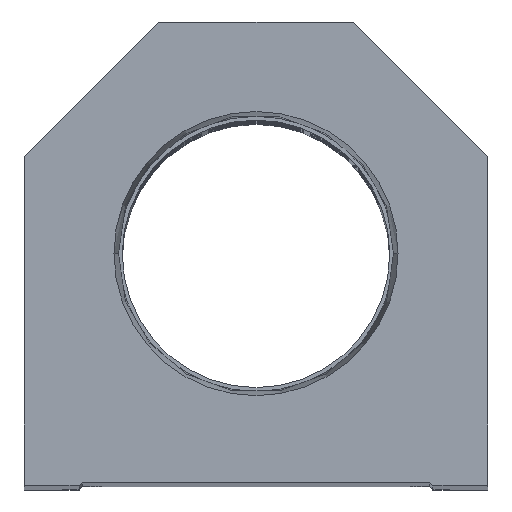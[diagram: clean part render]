
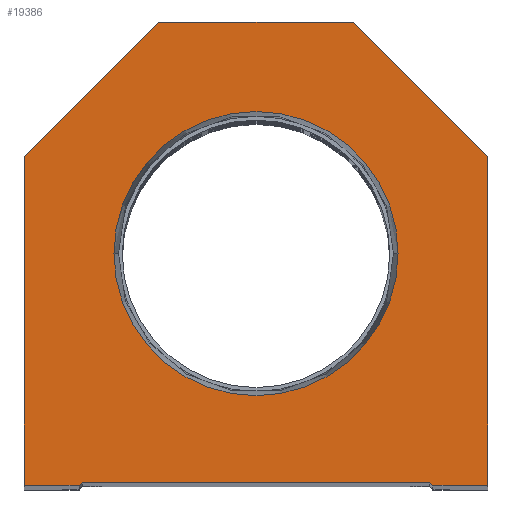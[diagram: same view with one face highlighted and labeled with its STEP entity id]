
A CAD part, top view. The second image highlights one B-rep face of the part: STEP entity #19386.
In plain terms, the highlighted planar face has unit normal (0, 0, 1).
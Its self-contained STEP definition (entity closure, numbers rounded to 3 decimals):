
#19 = VERTEX_POINT ( 'NONE', #4840 ) ;
#597 = VERTEX_POINT ( 'NONE', #11429 ) ;
#1091 = EDGE_CURVE ( 'NONE', #21797, #14191, #17232, .T. ) ;
#1240 = DIRECTION ( 'NONE',  ( 1., 0., 0. ) ) ;
#1493 = LINE ( 'NONE', #19085, #19244 ) ;
#1832 = CARTESIAN_POINT ( 'NONE',  ( 0., 38.1, 0. ) ) ;
#2059 = DIRECTION ( 'NONE',  ( 1., 0., 0. ) ) ;
#2275 = CARTESIAN_POINT ( 'NONE',  ( -38.1, 0., 0. ) ) ;
#2296 = AXIS2_PLACEMENT_3D ( 'NONE', #7933, #6185, #1240 ) ;
#2529 = VERTEX_POINT ( 'NONE', #21355 ) ;
#2709 = VERTEX_POINT ( 'NONE', #17292 ) ;
#2885 = VECTOR ( 'NONE', #21692, 1000. ) ;
#3162 = EDGE_CURVE ( 'NONE', #19, #21348, #9408, .T. ) ;
#3486 = EDGE_CURVE ( 'NONE', #14191, #21797, #14024, .T. ) ;
#3889 = DIRECTION ( 'NONE',  ( 1., 0., 0. ) ) ;
#3897 = ORIENTED_EDGE ( 'NONE', *, *, #1091, .F. ) ;
#3917 = ORIENTED_EDGE ( 'NONE', *, *, #5879, .T. ) ;
#4083 = LINE ( 'NONE', #16494, #17649 ) ;
#4329 = EDGE_CURVE ( 'NONE', #10900, #15236, #1493, .T. ) ;
#4663 = VERTEX_POINT ( 'NONE', #12299 ) ;
#4742 = AXIS2_PLACEMENT_3D ( 'NONE', #1832, #19759, #2059 ) ;
#4840 = CARTESIAN_POINT ( 'NONE',  ( -16., 76.2, 0. ) ) ;
#4909 = FACE_BOUND ( 'NONE', #17606, .T. ) ;
#5229 = VECTOR ( 'NONE', #3889, 1000. ) ;
#5300 = CARTESIAN_POINT ( 'NONE',  ( 38.1, 54.1, 0. ) ) ;
#5471 = VECTOR ( 'NONE', #11480, 1000. ) ;
#5768 = ORIENTED_EDGE ( 'NONE', *, *, #3486, .F. ) ;
#5879 = EDGE_CURVE ( 'NONE', #2529, #4663, #9362, .T. ) ;
#6185 = DIRECTION ( 'NONE',  ( 0., 0., 1. ) ) ;
#6273 = VECTOR ( 'NONE', #11197, 1000. ) ;
#6361 = CARTESIAN_POINT ( 'NONE',  ( 38.1, 0., 0. ) ) ;
#6388 = EDGE_CURVE ( 'NONE', #16186, #2709, #9999, .T. ) ;
#6409 = FACE_OUTER_BOUND ( 'NONE', #15067, .T. ) ;
#6610 = LINE ( 'NONE', #17307, #15612 ) ;
#6649 = ORIENTED_EDGE ( 'NONE', *, *, #9714, .T. ) ;
#7117 = VECTOR ( 'NONE', #22832, 1000. ) ;
#7349 = LINE ( 'NONE', #2275, #21194 ) ;
#7663 = DIRECTION ( 'NONE',  ( 1., 0., 0. ) ) ;
#7785 = CARTESIAN_POINT ( 'NONE',  ( -38.1, 54.1, 0. ) ) ;
#7873 = CARTESIAN_POINT ( 'NONE',  ( 23.374, 38.1, 0. ) ) ;
#7933 = CARTESIAN_POINT ( 'NONE',  ( 0., 0., 0. ) ) ;
#8377 = PLANE ( 'NONE',  #2296 ) ;
#8532 = EDGE_CURVE ( 'NONE', #597, #16186, #12382, .T. ) ;
#9362 = LINE ( 'NONE', #12622, #6273 ) ;
#9408 = LINE ( 'NONE', #7785, #2885 ) ;
#9714 = EDGE_CURVE ( 'NONE', #21348, #2529, #7349, .T. ) ;
#9999 = LINE ( 'NONE', #10345, #21847 ) ;
#10073 = ORIENTED_EDGE ( 'NONE', *, *, #14398, .T. ) ;
#10087 = DIRECTION ( 'NONE',  ( -0.707, 0.707, 0. ) ) ;
#10345 = CARTESIAN_POINT ( 'NONE',  ( 14.55, 14.55, 0. ) ) ;
#10456 = DIRECTION ( 'NONE',  ( 0., 0., 1. ) ) ;
#10528 = CARTESIAN_POINT ( 'NONE',  ( -38.1, 54.1, 0. ) ) ;
#10900 = VERTEX_POINT ( 'NONE', #6361 ) ;
#11197 = DIRECTION ( 'NONE',  ( 1., 0., 0. ) ) ;
#11429 = CARTESIAN_POINT ( 'NONE',  ( -28.6, 0.5, 0. ) ) ;
#11480 = DIRECTION ( 'NONE',  ( 0.707, 0.707, 0. ) ) ;
#12066 = CARTESIAN_POINT ( 'NONE',  ( 0., 38.1, 0. ) ) ;
#12251 = VERTEX_POINT ( 'NONE', #18637 ) ;
#12299 = CARTESIAN_POINT ( 'NONE',  ( -29.1, 0., 0. ) ) ;
#12382 = LINE ( 'NONE', #19446, #5229 ) ;
#12622 = CARTESIAN_POINT ( 'NONE',  ( -28.6, 0., 0. ) ) ;
#12639 = ORIENTED_EDGE ( 'NONE', *, *, #3162, .T. ) ;
#13598 = ORIENTED_EDGE ( 'NONE', *, *, #8532, .T. ) ;
#14024 = CIRCLE ( 'NONE', #4742, 23.374 ) ;
#14191 = VERTEX_POINT ( 'NONE', #19754 ) ;
#14398 = EDGE_CURVE ( 'NONE', #2709, #10900, #4083, .T. ) ;
#15067 = EDGE_LOOP ( 'NONE', ( #3917, #17379, #13598, #18640, #10073, #22285, #22336, #21516, #12639, #6649 ) ) ;
#15236 = VERTEX_POINT ( 'NONE', #5300 ) ;
#15612 = VECTOR ( 'NONE', #10087, 1000. ) ;
#16186 = VERTEX_POINT ( 'NONE', #17680 ) ;
#16261 = EDGE_CURVE ( 'NONE', #4663, #597, #18580, .T. ) ;
#16494 = CARTESIAN_POINT ( 'NONE',  ( 28.6, 0., 0. ) ) ;
#16511 = CARTESIAN_POINT ( 'NONE',  ( -14.55, 14.55, 0. ) ) ;
#17232 = CIRCLE ( 'NONE', #19455, 23.374 ) ;
#17292 = CARTESIAN_POINT ( 'NONE',  ( 29.1, 0., 0. ) ) ;
#17307 = CARTESIAN_POINT ( 'NONE',  ( 38.1, 54.1, 0. ) ) ;
#17379 = ORIENTED_EDGE ( 'NONE', *, *, #16261, .T. ) ;
#17606 = EDGE_LOOP ( 'NONE', ( #3897, #5768 ) ) ;
#17649 = VECTOR ( 'NONE', #7663, 1000. ) ;
#17680 = CARTESIAN_POINT ( 'NONE',  ( 28.6, 0.5, 0. ) ) ;
#17803 = DIRECTION ( 'NONE',  ( 0., -1., 0. ) ) ;
#18580 = LINE ( 'NONE', #16511, #5471 ) ;
#18637 = CARTESIAN_POINT ( 'NONE',  ( 16., 76.2, 0. ) ) ;
#18640 = ORIENTED_EDGE ( 'NONE', *, *, #6388, .T. ) ;
#19085 = CARTESIAN_POINT ( 'NONE',  ( 38.1, 0., 0. ) ) ;
#19244 = VECTOR ( 'NONE', #21040, 1000. ) ;
#19370 = LINE ( 'NONE', #20978, #7117 ) ;
#19386 = ADVANCED_FACE ( 'NONE', ( #4909, #6409 ), #8377, .T. ) ;
#19446 = CARTESIAN_POINT ( 'NONE',  ( -28.6, 0.5, 0. ) ) ;
#19455 = AXIS2_PLACEMENT_3D ( 'NONE', #12066, #10456, #20650 ) ;
#19754 = CARTESIAN_POINT ( 'NONE',  ( -23.374, 38.1, 0. ) ) ;
#19759 = DIRECTION ( 'NONE',  ( 0., 0., 1. ) ) ;
#20205 = EDGE_CURVE ( 'NONE', #15236, #12251, #6610, .T. ) ;
#20650 = DIRECTION ( 'NONE',  ( 1., 0., 0. ) ) ;
#20978 = CARTESIAN_POINT ( 'NONE',  ( 16., 76.2, 0. ) ) ;
#21040 = DIRECTION ( 'NONE',  ( 0., 1., 0. ) ) ;
#21194 = VECTOR ( 'NONE', #17803, 1000. ) ;
#21348 = VERTEX_POINT ( 'NONE', #10528 ) ;
#21355 = CARTESIAN_POINT ( 'NONE',  ( -38.1, 0., 0. ) ) ;
#21516 = ORIENTED_EDGE ( 'NONE', *, *, #21552, .T. ) ;
#21552 = EDGE_CURVE ( 'NONE', #12251, #19, #19370, .T. ) ;
#21692 = DIRECTION ( 'NONE',  ( -0.707, -0.707, 0. ) ) ;
#21797 = VERTEX_POINT ( 'NONE', #7873 ) ;
#21847 = VECTOR ( 'NONE', #22638, 1000. ) ;
#22285 = ORIENTED_EDGE ( 'NONE', *, *, #4329, .T. ) ;
#22336 = ORIENTED_EDGE ( 'NONE', *, *, #20205, .T. ) ;
#22638 = DIRECTION ( 'NONE',  ( 0.707, -0.707, 0. ) ) ;
#22832 = DIRECTION ( 'NONE',  ( -1., 0., 0. ) ) ;
